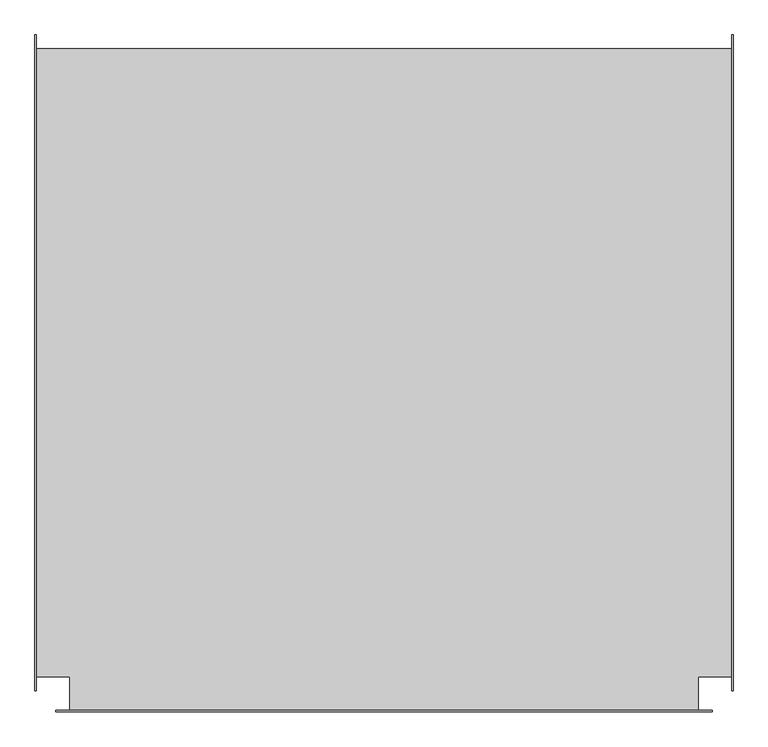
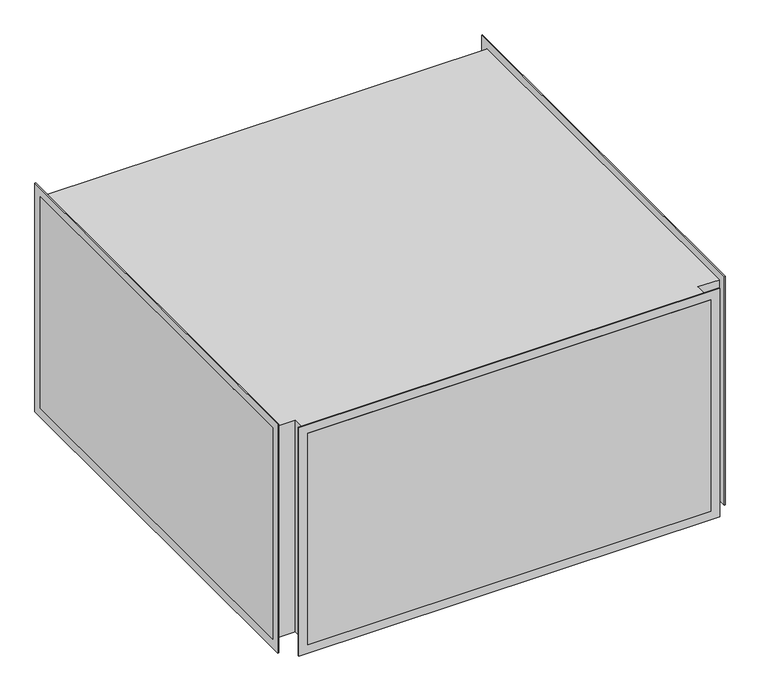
"""IFC4 building model written with IfcOpenShell, lengths in millimetres: duct fitting geometry, ADSK_ТройникВоздуховодов_Прямоугольный : Стандарт."""

from ifc_helpers import new_model, si_unit, frame, origin, place, context, project, spatial, polyline, outline, extrude, source, transform, mapped, element, save


def duct_fitting_629f4ff9(model_context):
    return source(origin(), model_context, "Body", "SweptSolid", [
        extrude(outline(polyline([(-500.0, -450.0), (-500.0, 450.0), (500.0, 450.0), (500.0, -450.0), (450.0, -450.0), (450.0, -500.0), (-450.0, -500.0), (-450.0, -450.0), (-500.0, -450.0)])), frame((0.0, 0.0, -250.0), z_axis=(0.0, 0.0, 1.0), x_axis=(1.0, 0.0, 0.0)), (0.0, 0.0, 1.0), 500.0),
        extrude(outline(polyline([(270.0, 470.0), (270.0, -470.0), (-270.0, -470.0), (-270.0, 470.0), (270.0, 470.0)]), holes=[polyline([(-250.0, 450.0), (-250.0, -450.0), (250.0, -450.0), (250.0, 450.0), (-250.0, 450.0)])]), frame((0.0, -500.0, 0.0), z_axis=(0.0, 1.0, 0.0), x_axis=(0.0, 0.0, 1.0)), (0.0, 0.0, 1.0), 2.0),
        extrude(outline(polyline([(-470.0, 270.0), (470.0, 270.0), (470.0, -270.0), (-470.0, -270.0), (-470.0, 270.0)]), holes=[polyline([(-450.0, -250.0), (450.0, -250.0), (450.0, 250.0), (-450.0, 250.0), (-450.0, -250.0)])]), frame((498.0, 0.0, 0.0), z_axis=(1.0, 0.0, 0.0), x_axis=(0.0, 1.0, 0.0)), (0.0, 0.0, 1.0), 2.0),
        extrude(outline(polyline([(-470.0, 270.0), (470.0, 270.0), (470.0, -270.0), (-470.0, -270.0), (-470.0, 270.0)]), holes=[polyline([(-450.0, -250.0), (450.0, -250.0), (450.0, 250.0), (-450.0, 250.0), (-450.0, -250.0)])]), frame((-500.0, 0.0, 0.0), z_axis=(1.0, 0.0, 0.0), x_axis=(0.0, 1.0, 0.0)), (0.0, 0.0, 1.0), 2.0),
    ])


if __name__ == "__main__":
    model = new_model("IFC4")
    model_context = context("Model", 3, world=origin())
    ifc_project = project(units=[si_unit("LENGTHUNIT", "METRE", prefix="MILLI")], contexts=[model_context])
    site = spatial("IfcSite", under=ifc_project)
    building = spatial("IfcBuilding", under=site)
    placement = place(None, origin())
    duct_fitting_shape = duct_fitting_629f4ff9(model_context)
    element("IfcDuctFitting", 1, ObjectType="ADSK_ТройникВоздуховодов_Прямоугольный : Стандарт", at=placement, inside=building, context=model_context, shape_type="MappedRepresentation", body=[
        mapped(duct_fitting_shape, transform((0.0, 0.0, 0.0), x_axis=(1.0, 0.0, 0.0), y_axis=(0.0, 1.0, 0.0), z_axis=(0.0, 0.0, 1.0))),
    ])
    save(model, "model.ifc")
